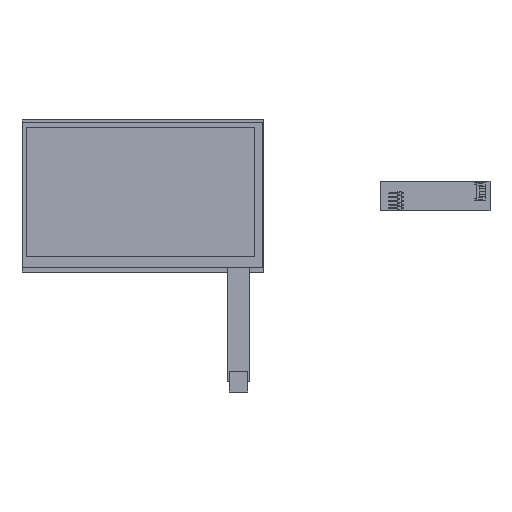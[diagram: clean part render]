
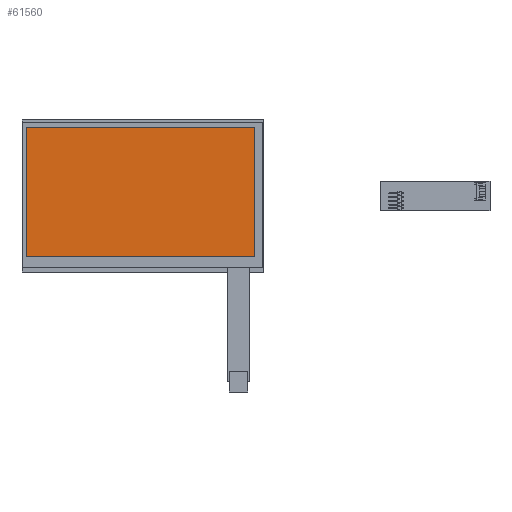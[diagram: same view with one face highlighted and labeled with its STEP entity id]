
A CAD part, top view. The second image highlights one B-rep face of the part: STEP entity #61560.
In plain terms, the highlighted planar face has unit normal (0, 0, 1).
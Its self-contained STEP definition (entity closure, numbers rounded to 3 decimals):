
#30 = CARTESIAN_POINT ( 'NONE',  ( 76.42, 46.91, 7.35 ) ) ;
#1399 = LINE ( 'NONE', #86631, #11891 ) ;
#2456 = EDGE_CURVE ( 'NONE', #58400, #54658, #1399, .T. ) ;
#4221 = LINE ( 'NONE', #36582, #25729 ) ;
#10329 = LINE ( 'NONE', #94477, #97706 ) ;
#11891 = VECTOR ( 'NONE', #78292, 1000. ) ;
#16334 = VECTOR ( 'NONE', #109968, 1000. ) ;
#17468 = DIRECTION ( 'NONE',  ( 0., 0., -1. ) ) ;
#18904 = EDGE_CURVE ( 'NONE', #19387, #58400, #4221, .T. ) ;
#19387 = VERTEX_POINT ( 'NONE', #61395 ) ;
#25605 = ORIENTED_EDGE ( 'NONE', *, *, #2456, .T. ) ;
#25729 = VECTOR ( 'NONE', #38205, 1000. ) ;
#25901 = FACE_OUTER_BOUND ( 'NONE', #109373, .T. ) ;
#36582 = CARTESIAN_POINT ( 'NONE',  ( 76.42, -41.69, 7.35 ) ) ;
#38205 = DIRECTION ( 'NONE',  ( 1., 0., 0. ) ) ;
#40289 = LINE ( 'NONE', #50269, #16334 ) ;
#43452 = ORIENTED_EDGE ( 'NONE', *, *, #18904, .T. ) ;
#43757 = DIRECTION ( 'NONE',  ( 0., -1., 0. ) ) ;
#50269 = CARTESIAN_POINT ( 'NONE',  ( 76.42, 46.91, 7.35 ) ) ;
#51422 = DIRECTION ( 'NONE',  ( -1., 0., 0. ) ) ;
#54658 = VERTEX_POINT ( 'NONE', #30 ) ;
#55487 = ORIENTED_EDGE ( 'NONE', *, *, #70400, .T. ) ;
#58400 = VERTEX_POINT ( 'NONE', #104048 ) ;
#60333 = AXIS2_PLACEMENT_3D ( 'NONE', #84922, #17468, #51422 ) ;
#61395 = CARTESIAN_POINT ( 'NONE',  ( -79.68, -41.69, 7.35 ) ) ;
#61560 = ADVANCED_FACE ( 'NONE', ( #25901 ), #93830, .F. ) ;
#70400 = EDGE_CURVE ( 'NONE', #54658, #106825, #40289, .T. ) ;
#78292 = DIRECTION ( 'NONE',  ( 0., 1., 0. ) ) ;
#84127 = EDGE_CURVE ( 'NONE', #106825, #19387, #10329, .T. ) ;
#84922 = CARTESIAN_POINT ( 'NONE',  ( 0., 0., 7.35 ) ) ;
#86631 = CARTESIAN_POINT ( 'NONE',  ( 76.42, 46.91, 7.35 ) ) ;
#91690 = CARTESIAN_POINT ( 'NONE',  ( -79.68, 46.91, 7.35 ) ) ;
#93830 = PLANE ( 'NONE',  #60333 ) ;
#94477 = CARTESIAN_POINT ( 'NONE',  ( -79.68, 46.91, 7.35 ) ) ;
#97706 = VECTOR ( 'NONE', #43757, 1000. ) ;
#104048 = CARTESIAN_POINT ( 'NONE',  ( 76.42, -41.69, 7.35 ) ) ;
#106079 = ORIENTED_EDGE ( 'NONE', *, *, #84127, .T. ) ;
#106825 = VERTEX_POINT ( 'NONE', #91690 ) ;
#109373 = EDGE_LOOP ( 'NONE', ( #25605, #55487, #106079, #43452 ) ) ;
#109968 = DIRECTION ( 'NONE',  ( -1., 0., 0. ) ) ;
